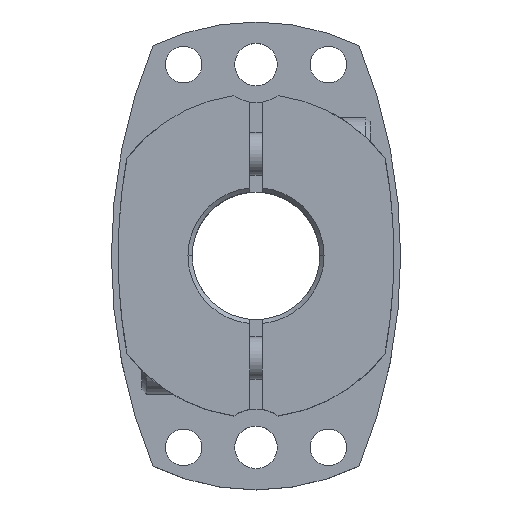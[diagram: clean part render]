
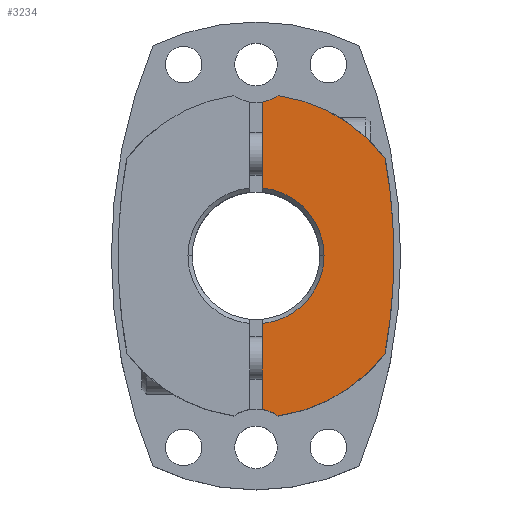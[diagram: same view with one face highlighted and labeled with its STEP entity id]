
A CAD part, top view. The second image highlights one B-rep face of the part: STEP entity #3234.
In plain terms, the highlighted planar face has unit normal (0, 0, 1).
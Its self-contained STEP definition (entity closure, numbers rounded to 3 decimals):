
#225=CARTESIAN_POINT('',(8.0,0.,17.0));
#226=VERTEX_POINT('',#225);
#235=CARTESIAN_POINT('',(0.75,7.965,17.0));
#236=VERTEX_POINT('',#235);
#237=CARTESIAN_POINT('',(0.0,0.,17.0));
#238=DIRECTION('',(0.0,0.0,1.0));
#239=DIRECTION('',(-1.0,0.0,0.0));
#240=AXIS2_PLACEMENT_3D('',#237,#238,#239);
#241=CIRCLE('',#240,8.0);
#242=EDGE_CURVE('',#226,#236,#241,.T.);
#537=CARTESIAN_POINT('',(16.2,0.,17.0));
#538=VERTEX_POINT('',#537);
#646=CARTESIAN_POINT('',(15.173,11.435,17.0));
#647=VERTEX_POINT('',#646);
#654=CARTESIAN_POINT('',(-48.,0.,17.0));
#655=DIRECTION('',(0.0,0.0,-1.0));
#656=DIRECTION('',(1.0,0.0,0.0));
#657=AXIS2_PLACEMENT_3D('',#654,#655,#656);
#658=CIRCLE('',#657,64.2);
#659=EDGE_CURVE('',#647,#538,#658,.T.);
#2305=CARTESIAN_POINT('',(2.593,18.822,17.0));
#2306=VERTEX_POINT('',#2305);
#2313=CARTESIAN_POINT('',(0.,0.,17.0));
#2314=DIRECTION('',(0.0,0.0,-1.0));
#2315=DIRECTION('',(1.0,0.0,0.0));
#2316=AXIS2_PLACEMENT_3D('',#2313,#2314,#2315);
#2317=CIRCLE('',#2316,19.);
#2318=EDGE_CURVE('',#2306,#647,#2317,.T.);
#2531=CARTESIAN_POINT('',(15.173,-11.435,17.0));
#2532=VERTEX_POINT('',#2531);
#2533=CARTESIAN_POINT('',(-48.,0.,17.0));
#2534=DIRECTION('',(0.0,0.0,-1.0));
#2535=DIRECTION('',(1.0,0.0,0.0));
#2536=AXIS2_PLACEMENT_3D('',#2533,#2534,#2535);
#2537=CIRCLE('',#2536,64.2);
#2538=EDGE_CURVE('',#538,#2532,#2537,.T.);
#2747=CARTESIAN_POINT('',(0.75,18.063,17.0));
#2748=VERTEX_POINT('',#2747);
#2755=CARTESIAN_POINT('',(0.,22.5,17.0));
#2756=DIRECTION('',(0.0,0.0,-1.0));
#2757=DIRECTION('',(1.0,0.0,0.0));
#2758=AXIS2_PLACEMENT_3D('',#2755,#2756,#2757);
#2759=CIRCLE('',#2758,4.5);
#2760=EDGE_CURVE('',#2306,#2748,#2759,.T.);
#2772=CARTESIAN_POINT('',(0.75,-18.063,17.0));
#2773=VERTEX_POINT('',#2772);
#2789=CARTESIAN_POINT('',(2.593,-18.822,17.0));
#2790=VERTEX_POINT('',#2789);
#2797=CARTESIAN_POINT('',(0.,-22.5,17.0));
#2798=DIRECTION('',(0.0,0.0,-1.0));
#2799=DIRECTION('',(1.0,0.0,0.0));
#2800=AXIS2_PLACEMENT_3D('',#2797,#2798,#2799);
#2801=CIRCLE('',#2800,4.5);
#2802=EDGE_CURVE('',#2773,#2790,#2801,.T.);
#3156=CARTESIAN_POINT('',(0.75,-7.965,17.0));
#3157=VERTEX_POINT('',#3156);
#3158=CARTESIAN_POINT('',(0.75,-7.965,17.0));
#3159=DIRECTION('',(0.0,-1.0,0.0));
#3160=VECTOR('',#3159,10.098);
#3161=LINE('',#3158,#3160);
#3162=EDGE_CURVE('',#3157,#2773,#3161,.T.);
#3200=CARTESIAN_POINT('',(0.,0.,17.0));
#3201=DIRECTION('',(0.0,0.0,1.0));
#3202=DIRECTION('',(1.0,0.0,0.0));
#3203=AXIS2_PLACEMENT_3D('',#3200,#3201,#3202);
#3204=PLANE('',#3203);
#3205=ORIENTED_EDGE('',*,*,#2760,.T.);
#3206=CARTESIAN_POINT('',(0.75,18.063,17.0));
#3207=DIRECTION('',(0.0,-1.0,0.0));
#3208=VECTOR('',#3207,10.098);
#3209=LINE('',#3206,#3208);
#3210=EDGE_CURVE('',#2748,#236,#3209,.T.);
#3211=ORIENTED_EDGE('',*,*,#3210,.T.);
#3212=ORIENTED_EDGE('',*,*,#242,.F.);
#3213=CARTESIAN_POINT('',(0.0,0.,17.0));
#3214=DIRECTION('',(0.0,0.0,1.0));
#3215=DIRECTION('',(-1.0,0.0,0.0));
#3216=AXIS2_PLACEMENT_3D('',#3213,#3214,#3215);
#3217=CIRCLE('',#3216,8.0);
#3218=EDGE_CURVE('',#3157,#226,#3217,.T.);
#3219=ORIENTED_EDGE('',*,*,#3218,.F.);
#3220=ORIENTED_EDGE('',*,*,#3162,.T.);
#3221=ORIENTED_EDGE('',*,*,#2802,.T.);
#3222=CARTESIAN_POINT('',(0.,0.0,17.0));
#3223=DIRECTION('',(0.0,0.0,-1.0));
#3224=DIRECTION('',(1.0,0.0,0.0));
#3225=AXIS2_PLACEMENT_3D('',#3222,#3223,#3224);
#3226=CIRCLE('',#3225,19.);
#3227=EDGE_CURVE('',#2532,#2790,#3226,.T.);
#3228=ORIENTED_EDGE('',*,*,#3227,.F.);
#3229=ORIENTED_EDGE('',*,*,#2538,.F.);
#3230=ORIENTED_EDGE('',*,*,#659,.F.);
#3231=ORIENTED_EDGE('',*,*,#2318,.F.);
#3232=EDGE_LOOP('',(#3205,#3211,#3212,#3219,#3220,#3221,#3228,#3229,#3230,#3231));
#3233=FACE_OUTER_BOUND('',#3232,.T.);
#3234=ADVANCED_FACE('',(#3233),#3204,.T.);
